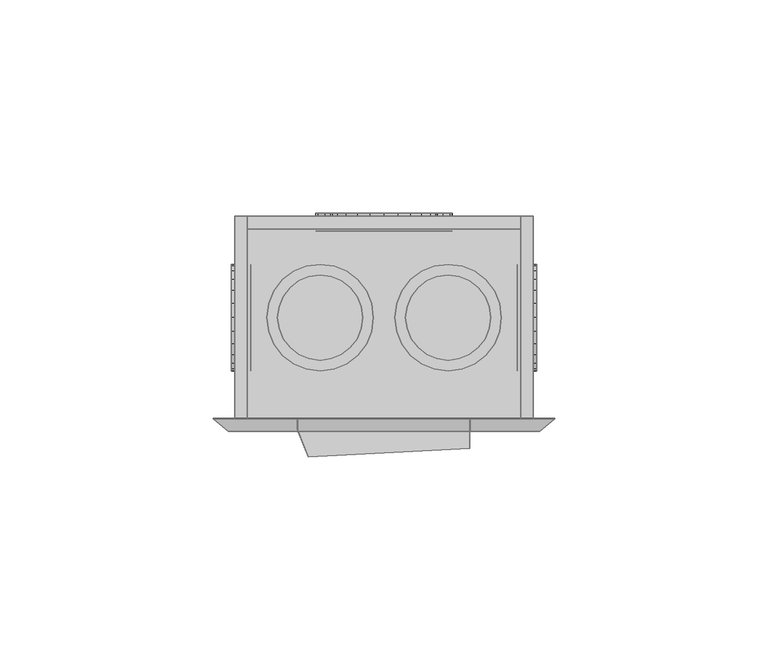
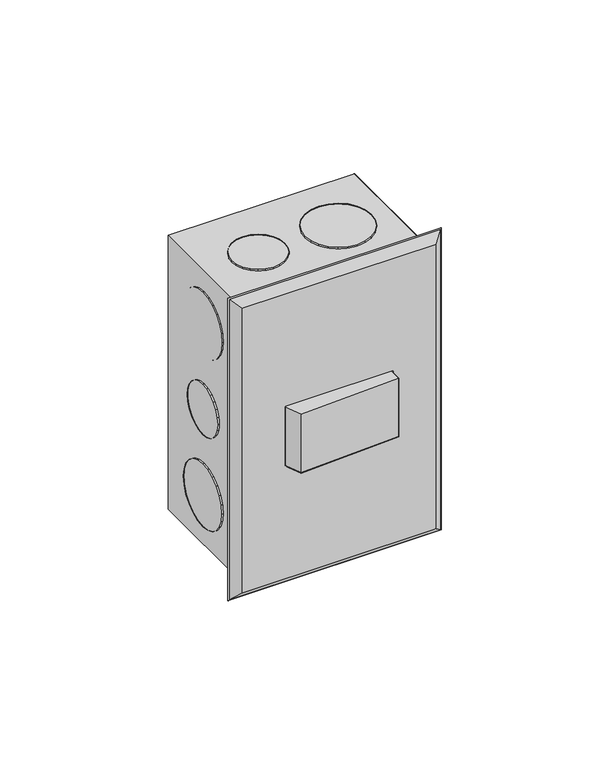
"""IFC4 building model written with IfcOpenShell, lengths in millimetres: proxy geometry,  210685 :  210685."""

from ifc_helpers import new_model, si_unit, origin, place, context, project, spatial, triangles, source, transform, mapped, element, save


def generic_models_2e893642(model_context):
    return source(origin(), model_context, "Body", "Tessellation", [
        triangles([(13376.2998047, 27548.6998535, 1254.3000378), (13373.2999878, 27548.6998535, 1148.7000154), (13376.2998047, 27548.6998535, 1145.6999805), (13373.2999878, 27548.6998535, 1251.2999302), (13306.2994263, 27548.6998535, 1254.3000378), (13309.3004059, 27548.6998535, 1251.2999302), (13306.2994263, 27548.6998535, 1145.6999805), (13309.3004059, 27548.6998535, 1148.7000154), (13373.2999878, 27596.1992798, 1251.2999302), (13373.2999878, 27596.1992798, 1148.7000154), (13306.2994263, 27596.1992798, 1254.3000378), (13306.2994263, 27596.1992798, 1145.6999805), (13309.3004059, 27596.1992798, 1251.2999302), (13376.2998047, 27596.1992798, 1145.6999805), (13309.3004059, 27596.1992798, 1148.7000154), (13376.2998047, 27596.1992798, 1254.3000378), (13373.2999878, 27593.1994629, 1251.2999302), (13309.3004059, 27593.1994629, 1148.7000154), (13373.2999878, 27593.1994629, 1148.7000154), (13309.3004059, 27593.1994629, 1251.2999302), (13355.1999298, 27592.6994934, 1191.9999887), (13349.3002899, 27592.6994934, 1186.0999855), (13352.6000885, 27592.6994934, 1188.6999722), (13356.7998322, 27592.6994934, 1195.8999687), (13345.5005219, 27592.6994934, 1184.5000105), (13357.2998016, 27592.6994934, 1200.0000092), (13341.2996155, 27592.6994934, 1183.9999683), (13356.7998322, 27592.6994934, 1204.0999769), (13337.1998657, 27592.6994934, 1184.5000105), (13355.1999298, 27592.6994934, 1208.0000296), (13333.3001038, 27592.6994934, 1186.0999855), (13352.6000885, 27592.6994934, 1211.2999735), (13330.0003052, 27592.6994934, 1188.6999722), (13349.3002899, 27592.6994934, 1213.9000328), (13327.5004578, 27592.6994934, 1191.9999887), (13345.5005219, 27592.6994934, 1215.5000078), (13325.9005554, 27592.6994934, 1195.8999687), (13341.2996155, 27592.6994934, 1215.9999773), (13325.2994293, 27592.6994934, 1200.0000092), (13337.1998657, 27592.6994934, 1215.5000078), (13325.9005554, 27592.6994934, 1204.0999769), (13333.3001038, 27592.6994934, 1213.9000328), (13327.5004578, 27592.6994934, 1208.0000296), (13330.0003052, 27592.6994934, 1211.2999735), (13337.1998657, 27596.8992371, 1184.5000105), (13341.2996155, 27596.8992371, 1183.9999683), (13345.5005219, 27596.8992371, 1184.5000105), (13349.3002899, 27596.8992371, 1186.0999855), (13352.6000885, 27596.8992371, 1188.6999722), (13355.1999298, 27596.8992371, 1191.9999887), (13356.7998322, 27596.8992371, 1195.8999687), (13357.2998016, 27596.8992371, 1200.0000092), (13356.7998322, 27596.8992371, 1204.0999769), (13355.1999298, 27596.8992371, 1208.0000296), (13352.6000885, 27596.8992371, 1211.2999735), (13349.3002899, 27596.8992371, 1213.9000328), (13345.5005219, 27596.8992371, 1215.5000078), (13341.2996155, 27596.8992371, 1215.9999773), (13337.1998657, 27596.8992371, 1215.5000078), (13333.3001038, 27596.8992371, 1213.9000328), (13330.0003052, 27596.8992371, 1211.2999735), (13327.5004578, 27596.8992371, 1208.0000296), (13325.9005554, 27596.8992371, 1204.0999769), (13325.2994293, 27596.8992371, 1200.0000092), (13325.9005554, 27596.8992371, 1195.8999687), (13327.5004578, 27596.8992371, 1191.9999887), (13330.0003052, 27596.8992371, 1188.6999722), (13333.3001038, 27596.8992371, 1186.0999855), (13352.2001129, 27592.6994934, 1227.8000565), (13347.6003937, 27592.6994934, 1223.2000465), (13350.200235, 27592.6994934, 1225.2000698), (13353.4000397, 27592.6994934, 1230.8000187), (13344.6005768, 27592.6994934, 1221.8999805), (13353.8000153, 27592.6994934, 1233.9999687), (13341.2996155, 27592.6994934, 1221.500005), (13353.4000397, 27592.6994934, 1237.2000641), (13338.0998108, 27592.6994934, 1221.8999805), (13352.2001129, 27592.6994934, 1240.3000202), (13335.0999939, 27592.6994934, 1223.2000465), (13350.200235, 27592.6994934, 1242.800013), (13332.5001526, 27592.6994934, 1225.2000698), (13330.5002747, 27592.6994934, 1227.8000565), (13347.6003937, 27592.6994934, 1244.8000362), (13344.6005768, 27592.6994934, 1246.0999569), (13329.3003479, 27592.6994934, 1230.8000187), (13341.2996155, 27592.6994934, 1246.4999325), (13328.8003784, 27592.6994934, 1233.9999687), (13338.0998108, 27592.6994934, 1246.0999569), (13329.3003479, 27592.6994934, 1237.2000641), (13330.5002747, 27592.6994934, 1240.3000202), (13335.0999939, 27592.6994934, 1244.8000362), (13332.5001526, 27592.6994934, 1242.800013), (13329.3003479, 27596.8992371, 1230.8000187), (13330.5002747, 27596.8992371, 1227.8000565), (13332.5001526, 27596.8992371, 1225.2000698), (13335.0999939, 27596.8992371, 1223.2000465), (13338.0998108, 27596.8992371, 1221.8999805), (13341.2996155, 27596.8992371, 1221.500005), (13344.6005768, 27596.8992371, 1221.8999805), (13347.6003937, 27596.8992371, 1223.2000465), (13350.200235, 27596.8992371, 1225.2000698), (13352.2001129, 27596.8992371, 1227.8000565), (13353.4000397, 27596.8992371, 1230.8000187), (13353.8000153, 27596.8992371, 1233.9999687), (13353.4000397, 27596.8992371, 1237.2000641), (13352.2001129, 27596.8992371, 1240.3000202), (13350.200235, 27596.8992371, 1242.800013), (13347.6003937, 27596.8992371, 1244.8000362), (13344.6005768, 27596.8992371, 1246.0999569), (13341.2996155, 27596.8992371, 1246.4999325), (13338.0998108, 27596.8992371, 1246.0999569), (13335.0999939, 27596.8992371, 1244.8000362), (13332.5001526, 27596.8992371, 1242.800013), (13330.5002747, 27596.8992371, 1240.3000202), (13329.3003479, 27596.8992371, 1237.2000641), (13328.8003784, 27596.8992371, 1233.9999687), (13347.6003937, 27596.8992371, 1155.1999821), (13352.2001129, 27596.8992371, 1159.6999981), (13350.200235, 27596.8992371, 1157.2000053), (13344.6005768, 27596.8992371, 1153.8999887), (13353.4000397, 27596.8992371, 1162.8000269), (13341.2996155, 27596.8992371, 1153.5000132), (13353.8000153, 27596.8992371, 1165.9999769), (13338.0998108, 27596.8992371, 1153.8999887), (13353.4000397, 27596.8992371, 1169.1999996), (13335.0999939, 27596.8992371, 1155.1999821), (13352.2001129, 27596.8992371, 1172.2000345), (13332.5001526, 27596.8992371, 1157.2000053), (13350.200235, 27596.8992371, 1174.8000212), (13330.5002747, 27596.8992371, 1159.6999981), (13347.6003937, 27596.8992371, 1176.7999718), (13329.3003479, 27596.8992371, 1162.8000269), (13344.6005768, 27596.8992371, 1178.0999651), (13341.2996155, 27596.8992371, 1178.5000134), (13328.8003784, 27596.8992371, 1165.9999769), (13329.3003479, 27596.8992371, 1169.1999996), (13338.0998108, 27596.8992371, 1178.0999651), (13330.5002747, 27596.8992371, 1172.2000345), (13335.0999939, 27596.8992371, 1176.7999718), (13332.5001526, 27596.8992371, 1174.8000212), (13344.6005768, 27592.6994934, 1178.0999651), (13341.2996155, 27592.6994934, 1178.5000134), (13347.6003937, 27592.6994934, 1176.7999718), (13350.200235, 27592.6994934, 1174.8000212), (13352.2001129, 27592.6994934, 1172.2000345), (13353.4000397, 27592.6994934, 1169.1999996), (13353.8000153, 27592.6994934, 1165.9999769), (13353.4000397, 27592.6994934, 1162.8000269), (13352.2001129, 27592.6994934, 1159.6999981), (13350.200235, 27592.6994934, 1157.2000053), (13347.6003937, 27592.6994934, 1155.1999821), (13344.6005768, 27592.6994934, 1153.8999887), (13341.2996155, 27592.6994934, 1153.5000132), (13338.0998108, 27592.6994934, 1153.8999887), (13335.0999939, 27592.6994934, 1155.1999821), (13332.5001526, 27592.6994934, 1157.2000053), (13330.5002747, 27592.6994934, 1159.6999981), (13329.3003479, 27592.6994934, 1162.8000269), (13328.8003784, 27592.6994934, 1165.9999769), (13329.3003479, 27592.6994934, 1169.1999996), (13330.5002747, 27592.6994934, 1172.2000345), (13332.5001526, 27592.6994934, 1174.8000212), (13335.0999939, 27592.6994934, 1176.7999718), (13338.0998108, 27592.6994934, 1178.0999651), (13372.5000366, 27577.4004272, 1191.3000315), (13372.5000366, 27581.1002014, 1195.0000237), (13372.5000366, 27579.5002991, 1192.9000065), (13372.5000366, 27582.1001404, 1197.4000225), (13372.5000366, 27575.0005737, 1190.3000198), (13372.5000366, 27582.4001221, 1200.0000092), (13372.5000366, 27572.4007324, 1189.9999655), (13372.5000366, 27569.900885, 1190.3000198), (13372.5000366, 27582.1001404, 1202.5999958), (13372.5000366, 27581.1002014, 1204.9999947), (13372.5000366, 27567.4010376, 1191.3000315), (13372.5000366, 27579.5002991, 1207.1000118), (13372.5000366, 27565.4011597, 1192.9000065), (13372.5000366, 27563.7989319, 1195.0000237), (13372.5000366, 27577.4004272, 1208.6999868), (13372.5000366, 27562.7989929, 1197.4000225), (13372.5000366, 27575.0005737, 1209.6999985), (13372.5000366, 27562.3990173, 1200.0000092), (13372.5000366, 27572.4007324, 1209.9999802), (13372.5000366, 27562.7989929, 1202.5999958), (13372.5000366, 27569.900885, 1209.6999985), (13372.5000366, 27567.4010376, 1208.6999868), (13372.5000366, 27563.7989319, 1204.9999947), (13372.5000366, 27565.4011597, 1207.1000118), (13377.0997559, 27572.4007324, 1189.9999655), (13377.0997559, 27575.0005737, 1190.3000198), (13377.0997559, 27569.900885, 1190.3000198), (13377.0997559, 27567.4010376, 1191.3000315), (13377.0997559, 27565.4011597, 1192.9000065), (13377.0997559, 27563.7989319, 1195.0000237), (13377.0997559, 27562.7989929, 1197.4000225), (13377.0997559, 27562.3990173, 1200.0000092), (13377.0997559, 27562.7989929, 1202.5999958), (13377.0997559, 27563.7989319, 1204.9999947), (13377.0997559, 27565.4011597, 1207.1000118), (13377.0997559, 27567.4010376, 1208.6999868), (13377.0997559, 27569.900885, 1209.6999985), (13377.0997559, 27572.4007324, 1209.9999802), (13377.0997559, 27575.0005737, 1209.6999985), (13377.0997559, 27577.4004272, 1208.6999868), (13377.0997559, 27579.5002991, 1207.1000118), (13377.0997559, 27581.1002014, 1204.9999947), (13377.0997559, 27582.1001404, 1202.5999958), (13377.0997559, 27582.4001221, 1200.0000092), (13377.0997559, 27582.1001404, 1197.4000225), (13377.0997559, 27581.1002014, 1195.0000237), (13377.0997559, 27579.5002991, 1192.9000065), (13377.0997559, 27577.4004272, 1191.3000315), (13372.5000366, 27578.7003479, 1223.2000465), (13372.5000366, 27583.3000671, 1227.8000565), (13372.5000366, 27581.3001892, 1225.2000698), (13372.5000366, 27575.700531, 1221.8999805), (13372.5000366, 27584.4999939, 1230.8000187), (13372.5000366, 27584.8999695, 1233.9999687), (13372.5000366, 27572.4007324, 1221.500005), (13372.5000366, 27569.2009277, 1221.8999805), (13372.5000366, 27584.4999939, 1237.2000641), (13372.5000366, 27583.3000671, 1240.3000202), (13372.5000366, 27566.2011108, 1223.2000465), (13372.5000366, 27563.5989441, 1225.2000698), (13372.5000366, 27581.3001892, 1242.800013), (13372.5000366, 27561.5990662, 1227.8000565), (13372.5000366, 27578.7003479, 1244.8000362), (13372.5000366, 27560.3991394, 1230.8000187), (13372.5000366, 27575.700531, 1246.0999569), (13372.5000366, 27559.8991699, 1233.9999687), (13372.5000366, 27572.4007324, 1246.4999325), (13372.5000366, 27560.3991394, 1237.2000641), (13372.5000366, 27569.2009277, 1246.0999569), (13372.5000366, 27561.5990662, 1240.3000202), (13372.5000366, 27566.2011108, 1244.8000362), (13372.5000366, 27563.5989441, 1242.800013), (13377.0997559, 27572.4007324, 1221.500005), (13377.0997559, 27575.700531, 1221.8999805), (13377.0997559, 27569.2009277, 1221.8999805), (13377.0997559, 27566.2011108, 1223.2000465), (13377.0997559, 27563.5989441, 1225.2000698), (13377.0997559, 27561.5990662, 1227.8000565), (13377.0997559, 27560.3991394, 1230.8000187), (13377.0997559, 27559.8991699, 1233.9999687), (13377.0997559, 27560.3991394, 1237.2000641), (13377.0997559, 27561.5990662, 1240.3000202), (13377.0997559, 27563.5989441, 1242.800013), (13377.0997559, 27566.2011108, 1244.8000362), (13377.0997559, 27569.2009277, 1246.0999569), (13377.0997559, 27572.4007324, 1246.4999325), (13377.0997559, 27575.700531, 1246.0999569), (13377.0997559, 27578.7003479, 1244.8000362), (13377.0997559, 27581.3001892, 1242.800013), (13377.0997559, 27583.3000671, 1240.3000202), (13377.0997559, 27584.4999939, 1237.2000641), (13377.0997559, 27584.8999695, 1233.9999687), (13377.0997559, 27584.4999939, 1230.8000187), (13377.0997559, 27583.3000671, 1227.8000565), (13377.0997559, 27581.3001892, 1225.2000698), (13377.0997559, 27578.7003479, 1223.2000465), (13377.0997559, 27583.3000671, 1159.6999981), (13377.0997559, 27578.7003479, 1155.1999821), (13377.0997559, 27581.3001892, 1157.2000053), (13377.0997559, 27584.4999939, 1162.8000269), (13377.0997559, 27575.700531, 1153.8999887), (13377.0997559, 27584.8999695, 1165.9999769), (13377.0997559, 27572.4007324, 1153.5000132), (13377.0997559, 27584.4999939, 1169.1999996), (13377.0997559, 27569.2009277, 1153.8999887), (13377.0997559, 27583.3000671, 1172.2000345), (13377.0997559, 27566.2011108, 1155.1999821), (13377.0997559, 27581.3001892, 1174.8000212), (13377.0997559, 27563.5989441, 1157.2000053), (13377.0997559, 27578.7003479, 1176.7999718), (13377.0997559, 27561.5990662, 1159.6999981), (13377.0997559, 27575.700531, 1178.0999651), (13377.0997559, 27560.3991394, 1162.8000269), (13377.0997559, 27572.4007324, 1178.5000134), (13377.0997559, 27559.8991699, 1165.9999769), (13377.0997559, 27569.2009277, 1178.0999651), (13377.0997559, 27560.3991394, 1169.1999996), (13377.0997559, 27566.2011108, 1176.7999718), (13377.0997559, 27561.5990662, 1172.2000345), (13377.0997559, 27563.5989441, 1174.8000212), (13372.5000366, 27575.700531, 1178.0999651), (13372.5000366, 27572.4007324, 1178.5000134), (13372.5000366, 27569.2009277, 1178.0999651), (13372.5000366, 27566.2011108, 1176.7999718), (13372.5000366, 27563.5989441, 1174.8000212), (13372.5000366, 27561.5990662, 1172.2000345), (13372.5000366, 27560.3991394, 1169.1999996), (13372.5000366, 27559.8991699, 1165.9999769), (13372.5000366, 27560.3991394, 1162.8000269), (13372.5000366, 27561.5990662, 1159.6999981), (13372.5000366, 27563.5989441, 1157.2000053), (13372.5000366, 27566.2011108, 1155.1999821), (13372.5000366, 27569.2009277, 1153.8999887), (13372.5000366, 27572.4007324, 1153.5000132), (13372.5000366, 27575.700531, 1153.8999887), (13372.5000366, 27578.7003479, 1155.1999821), (13372.5000366, 27581.3001892, 1157.2000053), (13372.5000366, 27583.3000671, 1159.6999981), (13372.5000366, 27584.4999939, 1162.8000269), (13372.5000366, 27584.8999695, 1165.9999769), (13372.5000366, 27584.4999939, 1169.1999996), (13372.5000366, 27583.3000671, 1172.2000345), (13372.5000366, 27581.3001892, 1174.8000212), (13372.5000366, 27578.7003479, 1176.7999718), (13310.1003571, 27581.1002014, 1195.0000237), (13310.1003571, 27577.4004272, 1191.3000315), (13310.1003571, 27579.5002991, 1192.9000065), (13310.1003571, 27582.1001404, 1197.4000225), (13310.1003571, 27575.0005737, 1190.3000198), (13310.1003571, 27582.4001221, 1200.0000092), (13310.1003571, 27572.4007324, 1189.9999655), (13310.1003571, 27582.1001404, 1202.5999958), (13310.1003571, 27569.900885, 1190.3000198), (13310.1003571, 27581.1002014, 1204.9999947), (13310.1003571, 27567.4010376, 1191.3000315), (13310.1003571, 27579.5002991, 1207.1000118), (13310.1003571, 27565.4011597, 1192.9000065), (13310.1003571, 27577.4004272, 1208.6999868), (13310.1003571, 27563.7989319, 1195.0000237), (13310.1003571, 27575.0005737, 1209.6999985), (13310.1003571, 27562.7989929, 1197.4000225), (13310.1003571, 27562.3990173, 1200.0000092), (13310.1003571, 27572.4007324, 1209.9999802), (13310.1003571, 27569.900885, 1209.6999985), (13310.1003571, 27562.7989929, 1202.5999958), (13310.1003571, 27567.4010376, 1208.6999868), (13310.1003571, 27563.7989319, 1204.9999947), (13310.1003571, 27565.4011597, 1207.1000118), (13305.4994751, 27575.0005737, 1209.6999985), (13305.4994751, 27572.4007324, 1209.9999802), (13305.4994751, 27569.900885, 1209.6999985), (13305.4994751, 27567.4010376, 1208.6999868), (13305.4994751, 27565.4011597, 1207.1000118), (13305.4994751, 27563.7989319, 1204.9999947), (13305.4994751, 27562.7989929, 1202.5999958), (13305.4994751, 27562.3990173, 1200.0000092), (13305.4994751, 27562.7989929, 1197.4000225), (13305.4994751, 27563.7989319, 1195.0000237), (13305.4994751, 27565.4011597, 1192.9000065), (13305.4994751, 27567.4010376, 1191.3000315), (13305.4994751, 27569.900885, 1190.3000198), (13305.4994751, 27572.4007324, 1189.9999655), (13305.4994751, 27575.0005737, 1190.3000198), (13305.4994751, 27577.4004272, 1191.3000315), (13305.4994751, 27579.5002991, 1192.9000065), (13305.4994751, 27581.1002014, 1195.0000237), (13305.4994751, 27582.1001404, 1197.4000225), (13305.4994751, 27582.4001221, 1200.0000092), (13305.4994751, 27582.1001404, 1202.5999958), (13305.4994751, 27581.1002014, 1204.9999947), (13305.4994751, 27579.5002991, 1207.1000118), (13305.4994751, 27577.4004272, 1208.6999868), (13310.1003571, 27583.3000671, 1159.6999981), (13310.1003571, 27578.7003479, 1155.1999821), (13310.1003571, 27581.3001892, 1157.2000053), (13310.1003571, 27584.4999939, 1162.8000269), (13310.1003571, 27575.700531, 1153.8999887), (13310.1003571, 27584.8999695, 1165.9999769), (13310.1003571, 27572.4007324, 1153.5000132), (13310.1003571, 27584.4999939, 1169.1999996), (13310.1003571, 27569.2009277, 1153.8999887), (13310.1003571, 27583.3000671, 1172.2000345), (13310.1003571, 27566.2011108, 1155.1999821), (13310.1003571, 27581.3001892, 1174.8000212), (13310.1003571, 27563.5989441, 1157.2000053), (13310.1003571, 27578.7003479, 1176.7999718), (13310.1003571, 27561.5990662, 1159.6999981), (13310.1003571, 27575.700531, 1178.0999651), (13310.1003571, 27560.3991394, 1162.8000269), (13310.1003571, 27572.4007324, 1178.5000134), (13310.1003571, 27559.8991699, 1165.9999769), (13310.1003571, 27569.2009277, 1178.0999651), (13310.1003571, 27560.3991394, 1169.1999996), (13310.1003571, 27566.2011108, 1176.7999718), (13310.1003571, 27561.5990662, 1172.2000345), (13310.1003571, 27563.5989441, 1174.8000212), (13305.4994751, 27575.700531, 1178.0999651), (13305.4994751, 27572.4007324, 1178.5000134), (13305.4994751, 27569.2009277, 1178.0999651), (13305.4994751, 27566.2011108, 1176.7999718), (13305.4994751, 27563.5989441, 1174.8000212), (13305.4994751, 27561.5990662, 1172.2000345), (13305.4994751, 27560.3991394, 1169.1999996), (13305.4994751, 27559.8991699, 1165.9999769), (13305.4994751, 27560.3991394, 1162.8000269), (13305.4994751, 27561.5990662, 1159.6999981), (13305.4994751, 27563.5989441, 1157.2000053), (13305.4994751, 27566.2011108, 1155.1999821), (13305.4994751, 27569.2009277, 1153.8999887), (13305.4994751, 27572.4007324, 1153.5000132), (13305.4994751, 27575.700531, 1153.8999887), (13305.4994751, 27578.7003479, 1155.1999821), (13305.4994751, 27581.3001892, 1157.2000053), (13305.4994751, 27583.3000671, 1159.6999981), (13305.4994751, 27584.4999939, 1162.8000269), (13305.4994751, 27584.8999695, 1165.9999769), (13305.4994751, 27584.4999939, 1169.1999996), (13305.4994751, 27583.3000671, 1172.2000345), (13305.4994751, 27581.3001892, 1174.8000212), (13305.4994751, 27578.7003479, 1176.7999718), (13305.4994751, 27578.7003479, 1223.2000465), (13305.4994751, 27583.3000671, 1227.8000565), (13305.4994751, 27581.3001892, 1225.2000698), (13305.4994751, 27575.700531, 1221.8999805), (13305.4994751, 27584.4999939, 1230.8000187), (13305.4994751, 27584.8999695, 1233.9999687), (13305.4994751, 27572.4007324, 1221.500005), (13305.4994751, 27569.2009277, 1221.8999805), (13305.4994751, 27584.4999939, 1237.2000641), (13305.4994751, 27583.3000671, 1240.3000202), (13305.4994751, 27566.2011108, 1223.2000465), (13305.4994751, 27563.5989441, 1225.2000698), (13305.4994751, 27581.3001892, 1242.800013), (13305.4994751, 27561.5990662, 1227.8000565), (13305.4994751, 27578.7003479, 1244.8000362), (13305.4994751, 27560.3991394, 1230.8000187), (13305.4994751, 27575.700531, 1246.0999569), (13305.4994751, 27559.8991699, 1233.9999687), (13305.4994751, 27572.4007324, 1246.4999325), (13305.4994751, 27560.3991394, 1237.2000641), (13305.4994751, 27569.2009277, 1246.0999569), (13305.4994751, 27561.5990662, 1240.3000202), (13305.4994751, 27566.2011108, 1244.8000362), (13305.4994751, 27563.5989441, 1242.800013), (13310.1003571, 27572.4007324, 1221.500005), (13310.1003571, 27575.700531, 1221.8999805), (13310.1003571, 27569.2009277, 1221.8999805), (13310.1003571, 27566.2011108, 1223.2000465), (13310.1003571, 27563.5989441, 1225.2000698), (13310.1003571, 27561.5990662, 1227.8000565), (13310.1003571, 27560.3991394, 1230.8000187), (13310.1003571, 27559.8991699, 1233.9999687), (13310.1003571, 27560.3991394, 1237.2000641), (13310.1003571, 27561.5990662, 1240.3000202), (13310.1003571, 27563.5989441, 1242.800013), (13310.1003571, 27566.2011108, 1244.8000362), (13310.1003571, 27569.2009277, 1246.0999569), (13310.1003571, 27572.4007324, 1246.4999325), (13310.1003571, 27575.700531, 1246.0999569), (13310.1003571, 27578.7003479, 1244.8000362), (13310.1003571, 27581.3001892, 1242.800013), (13310.1003571, 27583.3000671, 1240.3000202), (13310.1003571, 27584.4999939, 1237.2000641), (13310.1003571, 27584.8999695, 1233.9999687), (13310.1003571, 27584.4999939, 1230.8000187), (13310.1003571, 27583.3000671, 1227.8000565), (13310.1003571, 27581.3001892, 1225.2000698), (13310.1003571, 27578.7003479, 1223.2000465), (13367.2003601, 27578.7003479, 1250.9999485), (13362.5994781, 27583.3000671, 1250.9999485), (13365.2004822, 27581.3001892, 1250.9999485), (13368.4002869, 27575.700531, 1250.9999485), (13359.5996613, 27584.4999939, 1250.9999485), (13356.2998627, 27584.8999695, 1250.9999485), (13368.8002625, 27572.4007324, 1250.9999485), (13368.4002869, 27569.2009277, 1250.9999485), (13353.100058, 27584.4999939, 1250.9999485), (13350.1002411, 27583.3000671, 1250.9999485), (13367.2003601, 27566.2011108, 1250.9999485), (13365.2004822, 27563.5989441, 1250.9999485), (13347.5003998, 27581.3001892, 1250.9999485), (13345.5005219, 27578.7003479, 1250.9999485), (13362.5994781, 27561.5990662, 1250.9999485), (13359.5996613, 27560.3991394, 1250.9999485), (13344.2994324, 27575.700531, 1250.9999485), (13356.2998627, 27559.8991699, 1250.9999485), (13343.7994629, 27572.4007324, 1250.9999485), (13353.100058, 27560.3991394, 1250.9999485), (13344.2994324, 27569.2009277, 1250.9999485), (13345.5005219, 27566.2011108, 1250.9999485), (13350.1002411, 27561.5990662, 1250.9999485), (13347.5003998, 27563.5989441, 1250.9999485), (13356.2998627, 27584.8999695, 1255.1999828), (13353.100058, 27584.4999939, 1255.1999828), (13359.5996613, 27584.4999939, 1255.1999828), (13362.5994781, 27583.3000671, 1255.1999828), (13365.2004822, 27581.3001892, 1255.1999828), (13367.2003601, 27578.7003479, 1255.1999828), (13368.4002869, 27575.700531, 1255.1999828), (13368.8002625, 27572.4007324, 1255.1999828), (13368.4002869, 27569.2009277, 1255.1999828), (13367.2003601, 27566.2011108, 1255.1999828), (13365.2004822, 27563.5989441, 1255.1999828), (13362.5994781, 27561.5990662, 1255.1999828), (13359.5996613, 27560.3991394, 1255.1999828), (13356.2998627, 27559.8991699, 1255.1999828), (13353.100058, 27560.3991394, 1255.1999828), (13350.1002411, 27561.5990662, 1255.1999828), (13347.5003998, 27563.5989441, 1255.1999828), (13345.5005219, 27566.2011108, 1255.1999828), (13344.2994324, 27569.2009277, 1255.1999828), (13343.7994629, 27572.4007324, 1255.1999828), (13344.2994324, 27575.700531, 1255.1999828), (13345.5005219, 27578.7003479, 1255.1999828), (13347.5003998, 27581.3001892, 1255.1999828), (13350.1002411, 27583.3000671, 1255.1999828), (13335.0, 27577.4004272, 1250.9999485), (13331.3002258, 27581.1002014, 1250.9999485), (13333.4000977, 27579.5002991, 1250.9999485), (13328.9003723, 27582.1001404, 1250.9999485), (13335.999939, 27575.0005737, 1250.9999485), (13326.300531, 27582.4001221, 1250.9999485), (13336.2999207, 27572.4007324, 1250.9999485), (13335.999939, 27569.900885, 1250.9999485), (13323.699527, 27582.1001404, 1250.9999485), (13321.2996735, 27581.1002014, 1250.9999485), (13335.0, 27567.4010376, 1250.9999485), (13319.2997955, 27579.5002991, 1250.9999485), (13333.4000977, 27565.4011597, 1250.9999485), (13331.3002258, 27563.7989319, 1250.9999485), (13317.6998932, 27577.4004272, 1250.9999485), (13316.6999542, 27575.0005737, 1250.9999485), (13328.9003723, 27562.7989929, 1250.9999485), (13326.300531, 27562.3990173, 1250.9999485), (13316.2999786, 27572.4007324, 1250.9999485), (13323.699527, 27562.7989929, 1250.9999485), (13316.6999542, 27569.900885, 1250.9999485), (13321.2996735, 27563.7989319, 1250.9999485), (13317.6998932, 27567.4010376, 1250.9999485), (13319.2997955, 27565.4011597, 1250.9999485), (13323.699527, 27582.1001404, 1255.1999828), (13321.2996735, 27581.1002014, 1255.1999828), (13326.300531, 27582.4001221, 1255.1999828), (13328.9003723, 27582.1001404, 1255.1999828), (13331.3002258, 27581.1002014, 1255.1999828), (13333.4000977, 27579.5002991, 1255.1999828), (13335.0, 27577.4004272, 1255.1999828), (13335.999939, 27575.0005737, 1255.1999828), (13336.2999207, 27572.4007324, 1255.1999828), (13335.999939, 27569.900885, 1255.1999828), (13335.0, 27567.4010376, 1255.1999828), (13333.4000977, 27565.4011597, 1255.1999828), (13331.3002258, 27563.7989319, 1255.1999828), (13328.9003723, 27562.7989929, 1255.1999828), (13326.300531, 27562.3990173, 1255.1999828), (13323.699527, 27562.7989929, 1255.1999828), (13321.2996735, 27563.7989319, 1255.1999828), (13319.2997955, 27565.4011597, 1255.1999828), (13317.6998932, 27567.4010376, 1255.1999828), (13316.6999542, 27569.900885, 1255.1999828), (13316.2999786, 27572.4007324, 1255.1999828), (13316.6999542, 27575.0005737, 1255.1999828), (13317.6998932, 27577.4004272, 1255.1999828), (13319.2997955, 27579.5002991, 1255.1999828), (13365.0004944, 27577.4004272, 1144.8000355), (13361.2995575, 27581.1002014, 1144.8000355), (13363.3994293, 27579.5002991, 1144.8000355), (13358.899704, 27582.1001404, 1144.8000355), (13366.0004333, 27575.0005737, 1144.8000355), (13356.2998627, 27582.4001221, 1144.8000355), (13366.300415, 27572.4007324, 1144.8000355), (13366.0004333, 27569.900885, 1144.8000355), (13353.7000214, 27582.1001404, 1144.8000355), (13351.3001678, 27581.1002014, 1144.8000355), (13365.0004944, 27567.4010376, 1144.8000355), (13349.3002899, 27579.5002991, 1144.8000355), (13363.3994293, 27565.4011597, 1144.8000355), (13361.2995575, 27563.7989319, 1144.8000355), (13347.7003876, 27577.4004272, 1144.8000355), (13346.7004486, 27575.0005737, 1144.8000355), (13358.899704, 27562.7989929, 1144.8000355), (13356.2998627, 27562.3990173, 1144.8000355), (13346.300473, 27572.4007324, 1144.8000355), (13353.7000214, 27562.7989929, 1144.8000355), (13346.7004486, 27569.900885, 1144.8000355), (13351.3001678, 27563.7989319, 1144.8000355), (13347.7003876, 27567.4010376, 1144.8000355), (13349.3002899, 27565.4011597, 1144.8000355), (13358.899704, 27582.1001404, 1149.099991), (13356.2998627, 27582.4001221, 1149.099991), (13361.2995575, 27581.1002014, 1149.099991), (13363.3994293, 27579.5002991, 1149.099991), (13365.0004944, 27577.4004272, 1149.099991), (13366.0004333, 27575.0005737, 1149.099991), (13366.300415, 27572.4007324, 1149.099991), (13366.0004333, 27569.900885, 1149.099991), (13365.0004944, 27567.4010376, 1149.099991), (13363.3994293, 27565.4011597, 1149.099991), (13361.2995575, 27563.7989319, 1149.099991), (13358.899704, 27562.7989929, 1149.099991), (13356.2998627, 27562.3990173, 1149.099991), (13353.7000214, 27562.7989929, 1149.099991), (13351.3001678, 27563.7989319, 1149.099991), (13349.3002899, 27565.4011597, 1149.099991), (13347.7003876, 27567.4010376, 1149.099991), (13346.7004486, 27569.900885, 1149.099991), (13346.300473, 27572.4007324, 1149.099991), (13346.7004486, 27575.0005737, 1149.099991), (13347.7003876, 27577.4004272, 1149.099991), (13349.3002899, 27579.5002991, 1149.099991), (13351.3001678, 27581.1002014, 1149.099991), (13353.7000214, 27582.1001404, 1149.099991), (13337.1998657, 27578.7003479, 1144.8000355), (13332.6001465, 27583.3000671, 1144.8000355), (13335.1999878, 27581.3001892, 1144.8000355), (13338.3997925, 27575.700531, 1144.8000355), (13329.6003296, 27584.4999939, 1144.8000355), (13326.300531, 27584.8999695, 1144.8000355), (13338.7997681, 27572.4007324, 1144.8000355), (13338.3997925, 27569.2009277, 1144.8000355), (13323.0995636, 27584.4999939, 1144.8000355), (13320.0997467, 27583.3000671, 1144.8000355), (13337.1998657, 27566.2011108, 1144.8000355), (13335.1999878, 27563.5989441, 1144.8000355), (13317.4999054, 27581.3001892, 1144.8000355), (13315.5000275, 27578.7003479, 1144.8000355), (13332.6001465, 27561.5990662, 1144.8000355), (13329.6003296, 27560.3991394, 1144.8000355), (13314.3001007, 27575.700531, 1144.8000355), (13326.300531, 27559.8991699, 1144.8000355), (13313.8001312, 27572.4007324, 1144.8000355), (13323.0995636, 27560.3991394, 1144.8000355), (13314.3001007, 27569.2009277, 1144.8000355), (13315.5000275, 27566.2011108, 1144.8000355), (13320.0997467, 27561.5990662, 1144.8000355), (13317.4999054, 27563.5989441, 1144.8000355), (13323.0995636, 27584.4999939, 1149.099991), (13320.0997467, 27583.3000671, 1149.099991), (13326.300531, 27584.8999695, 1149.099991), (13329.6003296, 27584.4999939, 1149.099991), (13332.6001465, 27583.3000671, 1149.099991), (13335.1999878, 27581.3001892, 1149.099991), (13337.1998657, 27578.7003479, 1149.099991), (13338.3997925, 27575.700531, 1149.099991), (13338.7997681, 27572.4007324, 1149.099991), (13338.3997925, 27569.2009277, 1149.099991), (13337.1998657, 27566.2011108, 1149.099991), (13335.1999878, 27563.5989441, 1149.099991), (13332.6001465, 27561.5990662, 1149.099991), (13329.6003296, 27560.3991394, 1149.099991), (13326.300531, 27559.8991699, 1149.099991), (13323.0995636, 27560.3991394, 1149.099991), (13320.0997467, 27561.5990662, 1149.099991), (13317.4999054, 27563.5989441, 1149.099991), (13315.5000275, 27566.2011108, 1149.099991), (13314.3001007, 27569.2009277, 1149.099991), (13313.8001312, 27572.4007324, 1149.099991), (13314.3001007, 27575.700531, 1149.099991), (13315.5000275, 27578.7003479, 1149.099991), (13317.4999054, 27581.3001892, 1149.099991), (13301.2997314, 27548.6998535, 1139.9999651), (13361.4995453, 27548.6998535, 1188.2999966), (13381.2994995, 27548.6998535, 1139.9999651), (13321.0996857, 27548.6998535, 1188.2999966), (13301.2997314, 27548.6998535, 1259.9999805), (13321.0996857, 27548.6998535, 1211.7000217), (13381.2994995, 27548.6998535, 1259.9999805), (13361.4995453, 27548.6998535, 1211.7000217), (13321.0996857, 27545.7000366, 1188.2999966), (13321.0996857, 27545.7000366, 1211.7000217), (13361.4995453, 27545.7000366, 1188.2999966), (13361.4995453, 27545.7000366, 1211.7000217), (13377.7997131, 27545.7000366, 1143.4999695), (13377.7997131, 27545.7000366, 1256.5000488), (13304.7995178, 27545.7000366, 1143.4999695), (13304.7995178, 27545.7000366, 1256.5000488), (13361.3995514, 27541.7002808, 1188.1000088), (13320.9996918, 27548.6998535, 1188.1000088), (13361.3995514, 27548.6998535, 1188.1000088), (13323.5995331, 27539.8003967, 1188.1000088), (13320.9996918, 27546.2000061, 1188.1000088), (13361.3995514, 27548.6998535, 1211.500034), (13320.9996918, 27548.6998535, 1211.500034), (13361.3995514, 27541.7002808, 1211.500034), (13323.5995331, 27539.8003967, 1211.500034), (13320.9996918, 27546.2000061, 1211.500034)], [[1, 2, 3], [2, 1, 4], [5, 4, 1], [4, 5, 6], [3, 2, 7], [7, 2, 8], [7, 8, 6], [7, 6, 5], [2, 9, 10], [9, 2, 4], [7, 11, 12], [11, 7, 5], [4, 13, 9], [13, 4, 6], [3, 12, 14], [12, 3, 7], [13, 8, 15], [8, 13, 6], [16, 3, 14], [3, 16, 1], [15, 2, 10], [2, 15, 8], [11, 1, 16], [1, 11, 5], [12, 10, 14], [10, 12, 15], [11, 15, 12], [15, 11, 13], [14, 10, 16], [16, 10, 9], [16, 9, 13], [16, 13, 11], [17, 18, 19], [18, 17, 20], [18, 13, 15], [13, 18, 20], [19, 15, 10], [15, 19, 18], [9, 19, 10], [19, 9, 17], [13, 17, 9], [17, 13, 20], [15, 9, 10], [9, 15, 13], [21, 22, 23], [22, 21, 24], [25, 22, 24], [25, 24, 26], [27, 25, 26], [27, 26, 28], [29, 27, 28], [29, 28, 30], [31, 29, 30], [31, 30, 32], [31, 32, 33], [33, 32, 34], [33, 34, 35], [35, 34, 36], [35, 36, 37], [37, 36, 38], [37, 38, 39], [39, 38, 40], [39, 40, 41], [41, 40, 42], [41, 42, 43], [43, 42, 44], [27, 45, 46], [45, 27, 29], [25, 46, 47], [46, 25, 27], [22, 47, 48], [47, 22, 25], [23, 48, 49], [48, 23, 22], [50, 23, 49], [23, 50, 21], [51, 21, 50], [21, 51, 24], [52, 24, 51], [24, 52, 26], [53, 26, 52], [26, 53, 28], [54, 28, 53], [28, 54, 30], [55, 30, 54], [30, 55, 32], [56, 32, 55], [32, 56, 34], [57, 34, 56], [34, 57, 36], [58, 36, 57], [36, 58, 38], [59, 38, 58], [38, 59, 40], [60, 40, 59], [40, 60, 42], [61, 42, 60], [42, 61, 44], [43, 61, 62], [61, 43, 44], [41, 62, 63], [62, 41, 43], [39, 63, 64], [63, 39, 41], [37, 64, 65], [64, 37, 39], [35, 65, 66], [65, 35, 37], [33, 66, 67], [66, 33, 35], [31, 67, 68], [67, 31, 33], [29, 68, 45], [68, 29, 31], [48, 50, 49], [50, 48, 47], [51, 50, 47], [51, 47, 46], [52, 51, 46], [52, 46, 45], [53, 52, 45], [53, 45, 68], [54, 53, 68], [54, 68, 67], [54, 67, 55], [55, 67, 66], [55, 66, 56], [56, 66, 65], [56, 65, 57], [57, 65, 64], [57, 64, 58], [58, 64, 63], [58, 63, 59], [59, 63, 62], [59, 62, 60], [60, 62, 61], [69, 70, 71], [70, 69, 72], [73, 70, 72], [73, 72, 74], [75, 73, 74], [75, 74, 76], [77, 75, 76], [77, 76, 78], [79, 77, 78], [79, 78, 80], [81, 79, 80], [81, 80, 82], [82, 80, 83], [82, 83, 84], [82, 84, 85], [85, 84, 86], [85, 86, 87], [87, 86, 88], [87, 88, 89], [89, 88, 90], [90, 88, 91], [90, 91, 92], [82, 93, 94], [93, 82, 85], [81, 94, 95], [94, 81, 82], [79, 95, 96], [95, 79, 81], [77, 96, 97], [96, 77, 79], [75, 97, 98], [97, 75, 77], [73, 98, 99], [98, 73, 75], [70, 99, 100], [99, 70, 73], [71, 100, 101], [100, 71, 70], [102, 71, 101], [71, 102, 69], [103, 69, 102], [69, 103, 72], [104, 72, 103], [72, 104, 74], [105, 74, 104], [74, 105, 76], [106, 76, 105], [76, 106, 78], [107, 78, 106], [78, 107, 80], [108, 80, 107], [80, 108, 83], [109, 83, 108], [83, 109, 84], [110, 84, 109], [84, 110, 86], [111, 86, 110], [86, 111, 88], [112, 88, 111], [88, 112, 91], [113, 91, 112], [91, 113, 92], [90, 113, 114], [113, 90, 92], [89, 114, 115], [114, 89, 90], [87, 115, 116], [115, 87, 89], [85, 116, 93], [116, 85, 87], [100, 102, 101], [102, 100, 99], [103, 102, 99], [103, 99, 98], [104, 103, 98], [104, 98, 97], [105, 104, 97], [106, 105, 97], [106, 97, 96], [106, 96, 95], [106, 95, 107], [107, 95, 94], [107, 94, 108], [108, 94, 93], [108, 93, 109], [109, 93, 116], [109, 116, 110], [110, 116, 115], [110, 115, 111], [111, 115, 114], [111, 114, 112], [112, 114, 113], [117, 118, 119], [118, 117, 120], [121, 118, 120], [121, 120, 122], [123, 121, 122], [123, 122, 124], [125, 123, 124], [125, 124, 126], [127, 125, 126], [127, 126, 128], [127, 128, 129], [129, 128, 130], [129, 130, 131], [131, 130, 132], [131, 132, 133], [133, 132, 134], [134, 132, 135], [134, 135, 136], [134, 136, 137], [137, 136, 138], [137, 138, 139], [139, 138, 140], [134, 141, 133], [141, 134, 142], [133, 143, 131], [143, 133, 141], [131, 144, 129], [144, 131, 143], [129, 145, 127], [145, 129, 144], [127, 146, 125], [146, 127, 145], [125, 147, 123], [147, 125, 146], [123, 148, 121], [148, 123, 147], [121, 149, 118], [149, 121, 148], [118, 150, 119], [150, 118, 149], [150, 117, 119], [117, 150, 151], [151, 120, 117], [120, 151, 152], [152, 122, 120], [122, 152, 153], [153, 124, 122], [124, 153, 154], [154, 126, 124], [126, 154, 155], [155, 128, 126], [128, 155, 156], [156, 130, 128], [130, 156, 157], [157, 132, 130], [132, 157, 158], [158, 135, 132], [135, 158, 159], [159, 136, 135], [136, 159, 160], [160, 138, 136], [138, 160, 161], [161, 140, 138], [140, 161, 162], [140, 163, 139], [163, 140, 162], [139, 164, 137], [164, 139, 163], [137, 142, 134], [142, 137, 164], [149, 151, 150], [151, 149, 148], [152, 151, 148], [153, 152, 148], [153, 148, 147], [153, 147, 146], [154, 153, 146], [154, 146, 145], [155, 154, 145], [155, 145, 144], [156, 155, 144], [156, 144, 157], [157, 144, 143], [157, 143, 141], [157, 141, 158], [158, 141, 142], [158, 142, 159], [159, 142, 164], [159, 164, 160], [160, 164, 163], [160, 163, 161], [161, 163, 162], [165, 166, 167], [168, 166, 165], [168, 165, 169], [170, 168, 169], [170, 169, 171], [170, 171, 172], [173, 170, 172], [174, 173, 172], [174, 172, 175], [176, 174, 175], [176, 175, 177], [176, 177, 178], [176, 178, 179], [179, 178, 180], [179, 180, 181], [181, 180, 182], [181, 182, 183], [183, 182, 184], [183, 184, 185], [185, 184, 186], [186, 184, 187], [186, 187, 188], [189, 169, 190], [169, 189, 171], [191, 171, 189], [171, 191, 172], [192, 172, 191], [172, 192, 175], [193, 175, 192], [175, 193, 177], [194, 177, 193], [177, 194, 178], [195, 178, 194], [178, 195, 180], [196, 180, 195], [180, 196, 182], [197, 182, 196], [182, 197, 184], [198, 184, 197], [184, 198, 187], [199, 187, 198], [187, 199, 188], [186, 199, 200], [199, 186, 188], [185, 200, 201], [200, 185, 186], [183, 201, 202], [201, 183, 185], [181, 202, 203], [202, 181, 183], [179, 203, 204], [203, 179, 181], [176, 204, 205], [204, 176, 179], [174, 205, 206], [205, 174, 176], [173, 206, 207], [206, 173, 174], [170, 207, 208], [207, 170, 173], [168, 208, 209], [208, 168, 170], [166, 209, 210], [209, 166, 168], [167, 210, 211], [210, 167, 166], [212, 167, 211], [167, 212, 165], [190, 165, 212], [165, 190, 169], [210, 212, 211], [212, 210, 209], [190, 212, 209], [190, 209, 208], [189, 190, 208], [189, 208, 207], [191, 189, 207], [191, 207, 206], [192, 191, 206], [192, 206, 205], [192, 205, 193], [193, 205, 204], [193, 204, 194], [194, 204, 203], [194, 203, 195], [195, 203, 196], [196, 203, 202], [196, 202, 201], [196, 201, 197], [197, 201, 200], [197, 200, 198], [198, 200, 199], [213, 214, 215], [214, 213, 216], [217, 214, 216], [218, 217, 216], [218, 216, 219], [218, 219, 220], [221, 218, 220], [222, 221, 220], [222, 220, 223], [222, 223, 224], [222, 224, 225], [225, 224, 226], [225, 226, 227], [227, 226, 228], [227, 228, 229], [229, 228, 230], [229, 230, 231], [231, 230, 232], [231, 232, 233], [233, 232, 234], [233, 234, 235], [235, 234, 236], [237, 216, 238], [216, 237, 219], [239, 219, 237], [219, 239, 220], [240, 220, 239], [220, 240, 223], [241, 223, 240], [223, 241, 224], [242, 224, 241], [224, 242, 226], [243, 226, 242], [226, 243, 228], [244, 228, 243], [228, 244, 230], [245, 230, 244], [230, 245, 232], [246, 232, 245], [232, 246, 234], [247, 234, 246], [234, 247, 236], [235, 247, 248], [247, 235, 236], [233, 248, 249], [248, 233, 235], [231, 249, 250], [249, 231, 233], [229, 250, 251], [250, 229, 231], [227, 251, 252], [251, 227, 229], [225, 252, 253], [252, 225, 227], [222, 253, 254], [253, 222, 225], [221, 254, 255], [254, 221, 222], [218, 255, 256], [255, 218, 221], [217, 256, 257], [256, 217, 218], [214, 257, 258], [257, 214, 217], [215, 258, 259], [258, 215, 214], [260, 215, 259], [215, 260, 213], [238, 213, 260], [213, 238, 216], [258, 260, 259], [260, 258, 257], [238, 260, 257], [238, 257, 256], [237, 238, 256], [237, 256, 255], [239, 237, 255], [239, 255, 254], [240, 239, 254], [240, 254, 253], [241, 240, 253], [241, 253, 252], [241, 252, 242], [242, 252, 251], [242, 251, 243], [243, 251, 244], [244, 251, 250], [244, 250, 249], [244, 249, 245], [245, 249, 246], [246, 249, 248], [246, 248, 247], [261, 262, 263], [262, 261, 264], [265, 262, 264], [265, 264, 266], [267, 265, 266], [267, 266, 268], [269, 267, 268], [269, 268, 270], [271, 269, 270], [271, 270, 272], [273, 271, 272], [273, 272, 274], [273, 274, 275], [275, 274, 276], [275, 276, 277], [277, 276, 278], [277, 278, 279], [279, 278, 280], [279, 280, 281], [281, 280, 282], [281, 282, 283], [283, 282, 284], [285, 278, 276], [278, 285, 286], [286, 280, 278], [280, 286, 287], [287, 282, 280], [282, 287, 288], [288, 284, 282], [284, 288, 289], [284, 290, 283], [290, 284, 289], [283, 291, 281], [291, 283, 290], [281, 292, 279], [292, 281, 291], [279, 293, 277], [293, 279, 292], [277, 294, 275], [294, 277, 293], [275, 295, 273], [295, 275, 294], [273, 296, 271], [296, 273, 295], [271, 297, 269], [297, 271, 296], [269, 298, 267], [298, 269, 297], [267, 299, 265], [299, 267, 298], [265, 300, 262], [300, 265, 299], [262, 301, 263], [301, 262, 300], [301, 261, 263], [261, 301, 302], [302, 264, 261], [264, 302, 303], [303, 266, 264], [266, 303, 304], [304, 268, 266], [268, 304, 305], [305, 270, 268], [270, 305, 306], [306, 272, 270], [272, 306, 307], [307, 274, 272], [274, 307, 308], [308, 276, 274], [276, 308, 285], [300, 302, 301], [302, 300, 299], [303, 302, 299], [303, 299, 298], [304, 303, 298], [304, 298, 297], [305, 304, 297], [305, 297, 296], [306, 305, 296], [306, 296, 295], [306, 295, 307], [307, 295, 294], [307, 294, 308], [308, 294, 293], [308, 293, 285], [285, 293, 286], [286, 293, 292], [286, 292, 291], [286, 291, 287], [287, 291, 288], [288, 291, 290], [288, 290, 289], [309, 310, 311], [310, 309, 312], [313, 310, 312], [313, 312, 314], [315, 313, 314], [315, 314, 316], [317, 315, 316], [317, 316, 318], [319, 317, 318], [319, 318, 320], [319, 320, 321], [321, 320, 322], [321, 322, 323], [323, 322, 324], [323, 324, 325], [325, 324, 326], [326, 324, 327], [326, 327, 328], [326, 328, 329], [329, 328, 330], [329, 330, 331], [331, 330, 332], [333, 327, 324], [327, 333, 334], [334, 328, 327], [328, 334, 335], [335, 330, 328], [330, 335, 336], [336, 332, 330], [332, 336, 337], [332, 338, 331], [338, 332, 337], [331, 339, 329], [339, 331, 338], [329, 340, 326], [340, 329, 339], [326, 341, 325], [341, 326, 340], [325, 342, 323], [342, 325, 341], [323, 343, 321], [343, 323, 342], [321, 344, 319], [344, 321, 343], [319, 345, 317], [345, 319, 344], [317, 346, 315], [346, 317, 345], [315, 347, 313], [347, 315, 346], [313, 348, 310], [348, 313, 347], [310, 349, 311], [349, 310, 348], [349, 309, 311], [309, 349, 350], [350, 312, 309], [312, 350, 351], [351, 314, 312], [314, 351, 352], [352, 316, 314], [316, 352, 353], [353, 318, 316], [318, 353, 354], [354, 320, 318], [320, 354, 355], [355, 322, 320], [322, 355, 356], [356, 324, 322], [324, 356, 333], [348, 350, 349], [351, 350, 348], [351, 348, 347], [352, 351, 347], [352, 347, 346], [352, 346, 345], [353, 352, 345], [354, 353, 345], [354, 345, 344], [355, 354, 344], [355, 344, 343], [355, 343, 342], [355, 342, 356], [356, 342, 341], [356, 341, 333], [333, 341, 340], [333, 340, 334], [334, 340, 339], [334, 339, 335], [335, 339, 336], [336, 339, 338], [336, 338, 337], [357, 358, 359], [358, 357, 360], [361, 358, 360], [361, 360, 362], [363, 361, 362], [363, 362, 364], [365, 363, 364], [365, 364, 366], [367, 365, 366], [367, 366, 368], [369, 367, 368], [369, 368, 370], [369, 370, 371], [371, 370, 372], [371, 372, 373], [373, 372, 374], [373, 374, 375], [375, 374, 376], [375, 376, 377], [377, 376, 378], [377, 378, 379], [379, 378, 380], [381, 374, 372], [374, 381, 382], [382, 376, 374], [376, 382, 383], [383, 378, 376], [378, 383, 384], [384, 380, 378], [380, 384, 385], [380, 386, 379], [386, 380, 385], [379, 387, 377], [387, 379, 386], [377, 388, 375], [388, 377, 387], [375, 389, 373], [389, 375, 388], [373, 390, 371], [390, 373, 389], [371, 391, 369], [391, 371, 390], [369, 392, 367], [392, 369, 391], [367, 393, 365], [393, 367, 392], [365, 394, 363], [394, 365, 393], [363, 395, 361], [395, 363, 394], [361, 396, 358], [396, 361, 395], [358, 397, 359], [397, 358, 396], [397, 357, 359], [357, 397, 398], [398, 360, 357], [360, 398, 399], [399, 362, 360], [362, 399, 400], [400, 364, 362], [364, 400, 401], [401, 366, 364], [366, 401, 402], [402, 368, 366], [368, 402, 403], [403, 370, 368], [370, 403, 404], [404, 372, 370], [372, 404, 381], [396, 398, 397], [398, 396, 395], [399, 398, 395], [399, 395, 394], [400, 399, 394], [400, 394, 393], [401, 400, 393], [401, 393, 392], [402, 401, 392], [402, 392, 391], [402, 391, 403], [403, 391, 390], [403, 390, 404], [404, 390, 389], [404, 389, 381], [381, 389, 382], [382, 389, 388], [382, 388, 387], [382, 387, 383], [383, 387, 384], [384, 387, 386], [384, 386, 385], [405, 406, 407], [406, 405, 408], [409, 406, 408], [410, 409, 408], [410, 408, 411], [410, 411, 412], [413, 410, 412], [414, 413, 412], [414, 412, 415], [414, 415, 416], [414, 416, 417], [417, 416, 418], [417, 418, 419], [419, 418, 420], [419, 420, 421], [421, 420, 422], [421, 422, 423], [423, 422, 424], [423, 424, 425], [425, 424, 426], [425, 426, 427], [427, 426, 428], [429, 408, 430], [408, 429, 411], [431, 411, 429], [411, 431, 412], [432, 412, 431], [412, 432, 415], [433, 415, 432], [415, 433, 416], [434, 416, 433], [416, 434, 418], [435, 418, 434], [418, 435, 420], [436, 420, 435], [420, 436, 422], [437, 422, 436], [422, 437, 424], [438, 424, 437], [424, 438, 426], [439, 426, 438], [426, 439, 428], [427, 439, 440], [439, 427, 428], [425, 440, 441], [440, 425, 427], [423, 441, 442], [441, 423, 425], [421, 442, 443], [442, 421, 423], [419, 443, 444], [443, 419, 421], [417, 444, 445], [444, 417, 419], [414, 445, 446], [445, 414, 417], [413, 446, 447], [446, 413, 414], [410, 447, 448], [447, 410, 413], [409, 448, 449], [448, 409, 410], [406, 449, 450], [449, 406, 409], [407, 450, 451], [450, 407, 406], [452, 407, 451], [407, 452, 405], [430, 405, 452], [405, 430, 408], [450, 452, 451], [452, 450, 449], [430, 452, 449], [430, 449, 448], [429, 430, 448], [429, 448, 447], [431, 429, 447], [431, 447, 446], [432, 431, 446], [432, 446, 445], [433, 432, 445], [433, 445, 444], [433, 444, 434], [434, 444, 443], [434, 443, 435], [435, 443, 436], [436, 443, 442], [436, 442, 441], [436, 441, 437], [437, 441, 438], [438, 441, 440], [438, 440, 439], [453, 454, 455], [454, 453, 456], [457, 454, 456], [458, 457, 456], [458, 456, 459], [458, 459, 460], [461, 458, 460], [462, 461, 460], [462, 460, 463], [462, 463, 464], [462, 464, 465], [465, 464, 466], [466, 464, 467], [466, 467, 468], [466, 468, 469], [469, 468, 470], [469, 470, 471], [471, 470, 472], [471, 472, 473], [473, 472, 474], [474, 472, 475], [474, 475, 476], [461, 477, 458], [477, 461, 478], [458, 479, 457], [479, 458, 477], [457, 480, 454], [480, 457, 479], [454, 481, 455], [481, 454, 480], [481, 453, 455], [453, 481, 482], [482, 456, 453], [456, 482, 483], [483, 459, 456], [459, 483, 484], [484, 460, 459], [460, 484, 485], [485, 463, 460], [463, 485, 486], [486, 464, 463], [464, 486, 487], [487, 467, 464], [467, 487, 488], [488, 468, 467], [468, 488, 489], [489, 470, 468], [470, 489, 490], [490, 472, 470], [472, 490, 491], [491, 475, 472], [475, 491, 492], [492, 476, 475], [476, 492, 493], [476, 494, 474], [494, 476, 493], [474, 495, 473], [495, 474, 494], [473, 496, 471], [496, 473, 495], [471, 497, 469], [497, 471, 496], [469, 498, 466], [498, 469, 497], [466, 499, 465], [499, 466, 498], [465, 500, 462], [500, 465, 499], [462, 478, 461], [478, 462, 500], [480, 482, 481], [483, 482, 480], [483, 480, 479], [483, 479, 477], [484, 483, 477], [485, 484, 477], [485, 477, 478], [485, 478, 500], [486, 485, 500], [487, 486, 500], [487, 500, 499], [487, 499, 498], [487, 498, 488], [488, 498, 489], [489, 498, 497], [489, 497, 490], [490, 497, 496], [490, 496, 491], [491, 496, 495], [491, 495, 494], [491, 494, 492], [492, 494, 493], [501, 502, 503], [504, 502, 501], [504, 501, 505], [506, 504, 505], [506, 505, 507], [506, 507, 508], [509, 506, 508], [510, 509, 508], [510, 508, 511], [512, 510, 511], [512, 511, 513], [512, 513, 514], [512, 514, 515], [515, 514, 516], [516, 514, 517], [516, 517, 518], [516, 518, 519], [519, 518, 520], [519, 520, 521], [521, 520, 522], [521, 522, 523], [523, 522, 524], [510, 525, 509], [525, 510, 526], [509, 527, 506], [527, 509, 525], [506, 528, 504], [528, 506, 527], [504, 529, 502], [529, 504, 528], [502, 530, 503], [530, 502, 529], [530, 501, 503], [501, 530, 531], [531, 505, 501], [505, 531, 532], [532, 507, 505], [507, 532, 533], [533, 508, 507], [508, 533, 534], [534, 511, 508], [511, 534, 535], [535, 513, 511], [513, 535, 536], [536, 514, 513], [514, 536, 537], [537, 517, 514], [517, 537, 538], [538, 518, 517], [518, 538, 539], [539, 520, 518], [520, 539, 540], [540, 522, 520], [522, 540, 541], [541, 524, 522], [524, 541, 542], [524, 543, 523], [543, 524, 542], [523, 544, 521], [544, 523, 543], [521, 545, 519], [545, 521, 544], [519, 546, 516], [546, 519, 545], [516, 547, 515], [547, 516, 546], [515, 548, 512], [548, 515, 547], [512, 526, 510], [526, 512, 548], [529, 531, 530], [531, 529, 528], [532, 531, 528], [532, 528, 527], [533, 532, 527], [534, 533, 527], [534, 527, 525], [534, 525, 526], [535, 534, 526], [535, 526, 548], [535, 548, 536], [536, 548, 537], [537, 548, 547], [537, 547, 546], [537, 546, 538], [538, 546, 539], [539, 546, 545], [539, 545, 540], [540, 545, 544], [540, 544, 541], [541, 544, 543], [541, 543, 542], [549, 550, 551], [552, 550, 549], [552, 549, 553], [554, 552, 553], [554, 553, 555], [554, 555, 556], [557, 554, 556], [558, 557, 556], [558, 556, 559], [560, 558, 559], [560, 559, 561], [560, 561, 562], [560, 562, 563], [563, 562, 564], [564, 562, 565], [564, 565, 566], [564, 566, 567], [567, 566, 568], [567, 568, 569], [569, 568, 570], [569, 570, 571], [571, 570, 572], [554, 573, 552], [573, 554, 574], [552, 575, 550], [575, 552, 573], [550, 576, 551], [576, 550, 575], [576, 549, 551], [549, 576, 577], [577, 553, 549], [553, 577, 578], [578, 555, 553], [555, 578, 579], [579, 556, 555], [556, 579, 580], [580, 559, 556], [559, 580, 581], [581, 561, 559], [561, 581, 582], [582, 562, 561], [562, 582, 583], [583, 565, 562], [565, 583, 584], [584, 566, 565], [566, 584, 585], [585, 568, 566], [568, 585, 586], [586, 570, 568], [570, 586, 587], [587, 572, 570], [572, 587, 588], [572, 589, 571], [589, 572, 588], [571, 590, 569], [590, 571, 589], [569, 591, 567], [591, 569, 590], [567, 592, 564], [592, 567, 591], [564, 593, 563], [593, 564, 592], [563, 594, 560], [594, 563, 593], [560, 595, 558], [595, 560, 594], [558, 596, 557], [596, 558, 595], [557, 574, 554], [574, 557, 596], [575, 577, 576], [577, 575, 573], [578, 577, 573], [578, 573, 574], [579, 578, 574], [580, 579, 574], [580, 574, 596], [580, 596, 595], [581, 580, 595], [581, 595, 594], [581, 594, 582], [582, 594, 583], [583, 594, 593], [583, 593, 592], [583, 592, 584], [584, 592, 585], [585, 592, 591], [585, 591, 586], [586, 591, 590], [586, 590, 587], [587, 590, 589], [587, 589, 588], [597, 598, 599], [598, 597, 600], [601, 598, 600], [602, 601, 600], [602, 600, 603], [602, 603, 604], [605, 602, 604], [606, 605, 604], [606, 604, 607], [606, 607, 608], [606, 608, 609], [609, 608, 610], [610, 608, 611], [610, 611, 612], [610, 612, 613], [613, 612, 614], [613, 614, 615], [615, 614, 616], [615, 616, 617], [617, 616, 618], [618, 616, 619], [618, 619, 620], [606, 621, 605], [621, 606, 622], [605, 623, 602], [623, 605, 621], [602, 624, 601], [624, 602, 623], [601, 625, 598], [625, 601, 624], [598, 626, 599], [626, 598, 625], [626, 597, 599], [597, 626, 627], [627, 600, 597], [600, 627, 628], [628, 603, 600], [603, 628, 629], [629, 604, 603], [604, 629, 630], [630, 607, 604], [607, 630, 631], [631, 608, 607], [608, 631, 632], [632, 611, 608], [611, 632, 633], [633, 612, 611], [612, 633, 634], [634, 614, 612], [614, 634, 635], [635, 616, 614], [616, 635, 636], [636, 619, 616], [619, 636, 637], [637, 620, 619], [620, 637, 638], [620, 639, 618], [639, 620, 638], [618, 640, 617], [640, 618, 639], [617, 641, 615], [641, 617, 640], [615, 642, 613], [642, 615, 641], [613, 643, 610], [643, 613, 642], [610, 644, 609], [644, 610, 643], [609, 622, 606], [622, 609, 644], [625, 627, 626], [628, 627, 625], [628, 625, 624], [628, 624, 623], [629, 628, 623], [630, 629, 623], [630, 623, 621], [630, 621, 622], [631, 630, 622], [632, 631, 622], [632, 622, 644], [632, 644, 643], [632, 643, 633], [633, 643, 634], [634, 643, 642], [634, 642, 635], [635, 642, 641], [635, 641, 636], [636, 641, 640], [636, 640, 639], [636, 639, 637], [637, 639, 638], [645, 646, 647], [646, 645, 648], [649, 648, 645], [648, 649, 650], [647, 646, 651], [651, 646, 652], [651, 652, 650], [651, 650, 649], [650, 653, 648], [653, 650, 654], [648, 655, 646], [655, 648, 653], [655, 652, 646], [652, 655, 656], [656, 650, 652], [650, 656, 654], [651, 657, 647], [657, 651, 658], [647, 657, 645], [645, 657, 659], [660, 645, 659], [645, 660, 649], [651, 660, 658], [649, 660, 651], [658, 655, 657], [655, 658, 656], [654, 656, 658], [654, 658, 660], [655, 659, 657], [659, 655, 653], [659, 653, 660], [660, 653, 654], [661, 662, 663], [662, 661, 664], [662, 664, 665], [662, 666, 663], [666, 662, 667], [666, 661, 663], [661, 666, 668], [668, 664, 661], [664, 668, 669], [664, 670, 665], [670, 664, 669], [665, 667, 662], [667, 665, 670], [667, 668, 666], [668, 667, 669], [669, 667, 670]], closed=False),
    ])


if __name__ == "__main__":
    model = new_model("IFC4")
    model_context = context("Model", 3, world=origin())
    ifc_project = project(units=[si_unit("LENGTHUNIT", "METRE", prefix="MILLI")], contexts=[model_context])
    site = spatial("IfcSite", under=ifc_project)
    building = spatial("IfcBuilding", under=site)
    placement = place(None, origin())
    generic_models_shape = generic_models_2e893642(model_context)
    element("IfcBuildingElementProxy", 1, Name=" 210685 :  210685", ObjectType=" 210685 :  210685", at=placement, inside=building, context=model_context, shape_type="MappedRepresentation", body=[
        mapped(generic_models_shape, transform((0.0, 0.0, 0.0), x_axis=(1.0, 0.0, 0.0), y_axis=(0.0, 1.0, 0.0), z_axis=(0.0, 0.0, 1.0))),
    ])
    save(model, "model.ifc")
